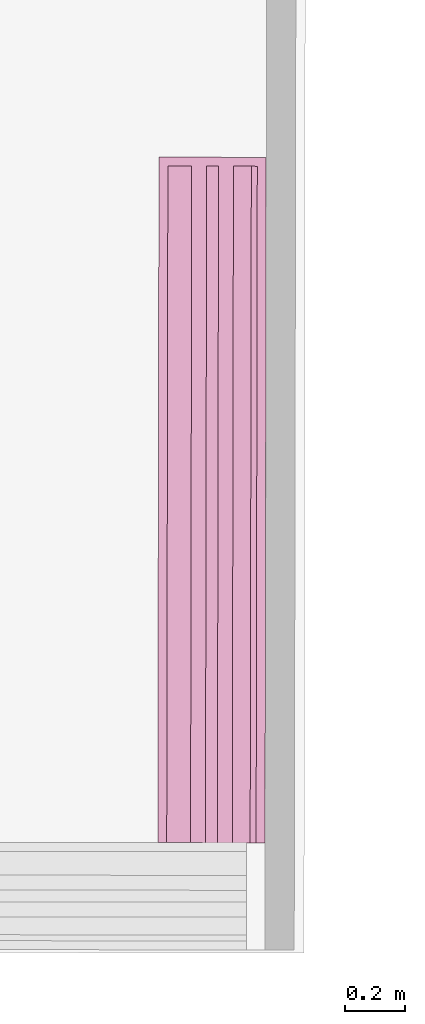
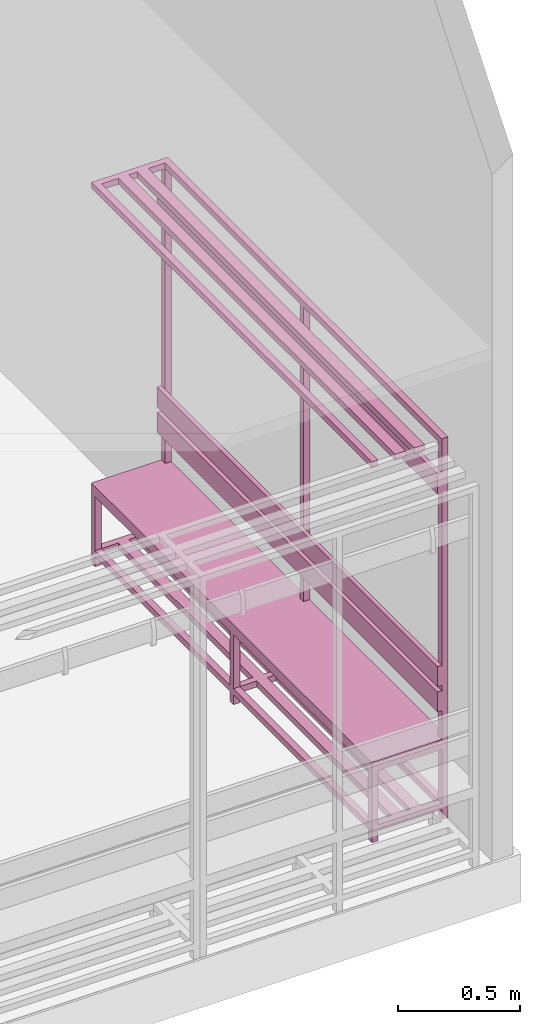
# One storey, part 40 of 43: 1 furnishing.
"""IFC2X3 building model written with IfcOpenShell, lengths in metres."""

from ifc_helpers import new_model, entity, si_unit, converted_unit, derived_unit, direction, frame, frame_2d, origin, origin_2d_with_axis, place, context, subcontext, project, spatial, polyline, circle_curve, parameter, trimmed, segment, composite_curve, rectangle, outline, extrude, source, transform, mapped, material, material_list, type_object, type_shapes, element, save


model = new_model("IFC2X3")

# Units and contexts
model_context = context("Model", 3, precision=1e-05, world=origin(), true_north=direction((6.123233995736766e-17, 1.0)))
body_context = subcontext(model_context, "Body", "Model", "MODEL_VIEW")
ifc_project = project(units=[si_unit("LENGTHUNIT", "METRE"), si_unit("AREAUNIT", "SQUARE_METRE"), converted_unit("PLANEANGLEUNIT", "DEGREE", entity("IfcPlaneAngleMeasure", 0.017453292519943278), si_unit("PLANEANGLEUNIT", "RADIAN"), dimensions=[0, 0, 0, 0, 0, 0, 0]), derived_unit("THERMALTRANSMITTANCEUNIT", [(si_unit("MASSUNIT", "GRAM", prefix="KILO"), 1), (si_unit("THERMODYNAMICTEMPERATUREUNIT", "KELVIN"), -1), (si_unit("TIMEUNIT", "SECOND"), -3)])], contexts=[model_context])

# Site, building, storey
site_placement = place(None, frame((1253.6752467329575, 2072.143113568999, 91.49999999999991), z_axis=(0.0, 0.0, 1.0), x_axis=(0.7237211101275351, 0.6900925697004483, 0.0)))
site = spatial("IfcSite", under=ifc_project, at=site_placement, Name="Surface", CompositionType="ELEMENT")
building_placement = place(site_placement, origin())
building = spatial("IfcBuilding", under=site, at=building_placement, CompositionType="ELEMENT")
storey_placement = place(building_placement, frame((0.0, 0.0, -4.629999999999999)))
storey = spatial("IfcBuildingStorey", under=building, at=storey_placement, Name="rez de rue -1.10m", CompositionType="ELEMENT", Elevation=-4.629999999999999)

# Furnishing
ifc_material_1 = material(Name="Peinture - Grise")
ifc_material_2 = material(Name="<Unnamed>")
ifc_material_3 = material(Name="mat2")
ifc_material_list = material_list([ifc_material_1, ifc_material_2, ifc_material_3])
furniture_type = type_object("IfcFurnitureType", Name="bancpateres:bancpateres", AssemblyPlace="NOTDEFINED", material=ifc_material_list)
shared_shape = source(origin(), body_context, "Body", "SweptSolid", [
    extrude(outline(composite_curve([segment(polyline([(0.022484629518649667, -0.01590042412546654), (0.07301844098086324, -0.01590042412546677)]), True, "CONTINUOUS"), segment(polyline([(0.07301844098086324, -0.01590042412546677), (0.07301844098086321, -0.014900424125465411)]), True, "CONTINUOUS"), segment(polyline([(0.07301844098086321, -0.014900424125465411), (0.02263224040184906, -0.014900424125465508)]), True, "CONTINUOUS"), segment(polyline([(0.02263224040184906, -0.014900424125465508), (-0.04718504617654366, 0.006170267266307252)]), True, "CONTINUOUS"), segment(trimmed(circle_curve(frame_2d((-0.044350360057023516, 0.015562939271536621), x_axis=(0.9573513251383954, -0.28892635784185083)), 0.009811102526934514), [parameter(129.00000000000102)], [parameter(269.9999999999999)], True, "PARAMETER"), False, "CONTINUOUS"), segment(polyline([(-0.048058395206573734, 0.02464634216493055), (-0.04843633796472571, 0.025572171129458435)]), True, "CONTINUOUS"), segment(trimmed(circle_curve(frame_2d((-0.044350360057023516, 0.015562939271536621), x_axis=(0.9573513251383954, -0.28892635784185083)), 0.010811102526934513), [parameter(129.0000000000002)], [parameter(269.9999999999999)], True, "PARAMETER"), True, "CONTINUOUS"), segment(polyline([(-0.04747397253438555, 0.005212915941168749), (0.022484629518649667, -0.01590042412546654)]), True, "CONTINUOUS")], self_intersect=False)), frame((0.26806707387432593, 0.4912741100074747, 6.308572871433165), z_axis=(1.0, 0.0, 0.0), x_axis=(0.0, -0.28892635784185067, 0.957351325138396)), (0.0, 0.0, 1.0), 0.019999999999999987),
    extrude(outline(composite_curve([segment(polyline([(0.022484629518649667, -0.01590042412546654), (0.07301844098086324, -0.01590042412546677)]), True, "CONTINUOUS"), segment(polyline([(0.07301844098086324, -0.01590042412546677), (0.07301844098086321, -0.014900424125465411)]), True, "CONTINUOUS"), segment(polyline([(0.07301844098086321, -0.014900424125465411), (0.02263224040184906, -0.014900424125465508)]), True, "CONTINUOUS"), segment(polyline([(0.02263224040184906, -0.014900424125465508), (-0.04718504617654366, 0.006170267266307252)]), True, "CONTINUOUS"), segment(trimmed(circle_curve(frame_2d((-0.044350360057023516, 0.015562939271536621), x_axis=(0.9573513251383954, -0.28892635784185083)), 0.009811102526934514), [parameter(129.00000000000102)], [parameter(269.9999999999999)], True, "PARAMETER"), False, "CONTINUOUS"), segment(polyline([(-0.048058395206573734, 0.02464634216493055), (-0.04843633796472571, 0.025572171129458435)]), True, "CONTINUOUS"), segment(trimmed(circle_curve(frame_2d((-0.044350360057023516, 0.015562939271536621), x_axis=(0.9573513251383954, -0.28892635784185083)), 0.010811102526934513), [parameter(129.0000000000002)], [parameter(269.9999999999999)], True, "PARAMETER"), True, "CONTINUOUS"), segment(polyline([(-0.04747397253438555, 0.005212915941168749), (0.022484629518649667, -0.01590042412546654)]), True, "CONTINUOUS")], self_intersect=False)), frame((-0.10793292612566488, 0.4912741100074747, 6.308572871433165), z_axis=(1.0, 0.0, 0.0), x_axis=(0.0, -0.28892635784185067, 0.957351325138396)), (0.0, 0.0, 1.0), 0.020000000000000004),
    extrude(outline(composite_curve([segment(polyline([(0.022484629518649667, -0.01590042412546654), (0.07301844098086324, -0.01590042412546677)]), True, "CONTINUOUS"), segment(polyline([(0.07301844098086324, -0.01590042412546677), (0.07301844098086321, -0.014900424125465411)]), True, "CONTINUOUS"), segment(polyline([(0.07301844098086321, -0.014900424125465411), (0.02263224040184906, -0.014900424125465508)]), True, "CONTINUOUS"), segment(polyline([(0.02263224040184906, -0.014900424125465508), (-0.04718504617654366, 0.006170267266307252)]), True, "CONTINUOUS"), segment(trimmed(circle_curve(frame_2d((-0.044350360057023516, 0.015562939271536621), x_axis=(0.9573513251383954, -0.28892635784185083)), 0.009811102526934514), [parameter(129.00000000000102)], [parameter(269.9999999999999)], True, "PARAMETER"), False, "CONTINUOUS"), segment(polyline([(-0.048058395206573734, 0.02464634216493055), (-0.04843633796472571, 0.025572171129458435)]), True, "CONTINUOUS"), segment(trimmed(circle_curve(frame_2d((-0.044350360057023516, 0.015562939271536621), x_axis=(0.9573513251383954, -0.28892635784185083)), 0.010811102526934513), [parameter(129.0000000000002)], [parameter(269.9999999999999)], True, "PARAMETER"), True, "CONTINUOUS"), segment(polyline([(-0.04747397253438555, 0.005212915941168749), (0.022484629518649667, -0.01590042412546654)]), True, "CONTINUOUS")], self_intersect=False)), frame((-0.48393292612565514, 0.4912741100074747, 6.308572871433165), z_axis=(1.0, 0.0, 0.0), x_axis=(0.0, -0.28892635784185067, 0.957351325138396)), (0.0, 0.0, 1.0), 0.019999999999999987),
    extrude(outline(composite_curve([segment(polyline([(0.022484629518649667, -0.01590042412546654), (0.07301844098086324, -0.01590042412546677)]), True, "CONTINUOUS"), segment(polyline([(0.07301844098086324, -0.01590042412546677), (0.07301844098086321, -0.014900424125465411)]), True, "CONTINUOUS"), segment(polyline([(0.07301844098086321, -0.014900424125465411), (0.02263224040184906, -0.014900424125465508)]), True, "CONTINUOUS"), segment(polyline([(0.02263224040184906, -0.014900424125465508), (-0.04718504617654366, 0.006170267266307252)]), True, "CONTINUOUS"), segment(trimmed(circle_curve(frame_2d((-0.044350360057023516, 0.015562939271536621), x_axis=(0.9573513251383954, -0.28892635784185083)), 0.009811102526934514), [parameter(129.00000000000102)], [parameter(269.9999999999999)], True, "PARAMETER"), False, "CONTINUOUS"), segment(polyline([(-0.048058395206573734, 0.02464634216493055), (-0.04843633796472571, 0.025572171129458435)]), True, "CONTINUOUS"), segment(trimmed(circle_curve(frame_2d((-0.044350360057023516, 0.015562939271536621), x_axis=(0.9573513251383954, -0.28892635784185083)), 0.010811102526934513), [parameter(129.0000000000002)], [parameter(269.9999999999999)], True, "PARAMETER"), True, "CONTINUOUS"), segment(polyline([(-0.04747397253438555, 0.005212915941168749), (0.022484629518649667, -0.01590042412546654)]), True, "CONTINUOUS")], self_intersect=False)), frame((-0.859932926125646, 0.4912741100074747, 6.308572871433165), z_axis=(1.0, 0.0, 0.0), x_axis=(0.0, -0.28892635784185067, 0.957351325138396)), (0.0, 0.0, 1.0), 0.020000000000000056),
    extrude(outline(composite_curve([segment(polyline([(0.022484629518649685, -0.015900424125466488), (0.07301844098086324, -0.01590042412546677)]), True, "CONTINUOUS"), segment(polyline([(0.07301844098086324, -0.01590042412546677), (0.07301844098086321, -0.014900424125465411)]), True, "CONTINUOUS"), segment(polyline([(0.07301844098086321, -0.014900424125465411), (0.02263224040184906, -0.014900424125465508)]), True, "CONTINUOUS"), segment(polyline([(0.02263224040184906, -0.014900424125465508), (-0.0471850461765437, 0.006170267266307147)]), True, "CONTINUOUS"), segment(trimmed(circle_curve(frame_2d((-0.044350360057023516, 0.015562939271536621), x_axis=(0.9573513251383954, -0.2889263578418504)), 0.009811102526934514), [parameter(129.00000000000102)], [parameter(269.9999999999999)], True, "PARAMETER"), False, "CONTINUOUS"), segment(polyline([(-0.048058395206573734, 0.02464634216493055), (-0.0484363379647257, 0.02557217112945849)]), True, "CONTINUOUS"), segment(trimmed(circle_curve(frame_2d((-0.044350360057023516, 0.015562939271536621), x_axis=(0.9573513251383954, -0.2889263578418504)), 0.010811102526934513), [parameter(129.0000000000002)], [parameter(269.9999999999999)], True, "PARAMETER"), True, "CONTINUOUS"), segment(polyline([(-0.04747397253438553, 0.005212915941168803), (0.022484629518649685, -0.015900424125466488)]), True, "CONTINUOUS")], self_intersect=False)), frame((0.6440670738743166, 0.4912741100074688, 6.308572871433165), z_axis=(1.0, 0.0, 0.0), x_axis=(0.0, -0.28892635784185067, 0.957351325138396)), (0.0, 0.0, 1.0), 0.020000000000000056),
    extrude(outline(composite_curve([segment(polyline([(0.022484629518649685, -0.015900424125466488), (0.07301844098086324, -0.01590042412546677)]), True, "CONTINUOUS"), segment(polyline([(0.07301844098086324, -0.01590042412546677), (0.07301844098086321, -0.014900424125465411)]), True, "CONTINUOUS"), segment(polyline([(0.07301844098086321, -0.014900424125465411), (0.02263224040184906, -0.014900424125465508)]), True, "CONTINUOUS"), segment(polyline([(0.02263224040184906, -0.014900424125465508), (-0.0471850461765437, 0.006170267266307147)]), True, "CONTINUOUS"), segment(trimmed(circle_curve(frame_2d((-0.044350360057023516, 0.015562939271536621), x_axis=(0.9573513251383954, -0.2889263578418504)), 0.009811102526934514), [parameter(129.00000000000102)], [parameter(269.9999999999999)], True, "PARAMETER"), False, "CONTINUOUS"), segment(polyline([(-0.04805839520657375, 0.024646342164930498), (-0.04843633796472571, 0.025572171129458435)]), True, "CONTINUOUS"), segment(trimmed(circle_curve(frame_2d((-0.044350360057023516, 0.015562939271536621), x_axis=(0.9573513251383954, -0.2889263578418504)), 0.010811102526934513), [parameter(129.0000000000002)], [parameter(269.9999999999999)], True, "PARAMETER"), True, "CONTINUOUS"), segment(polyline([(-0.04747397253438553, 0.005212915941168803), (0.022484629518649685, -0.015900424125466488)]), True, "CONTINUOUS")], self_intersect=False)), frame((-1.2359329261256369, 0.49127411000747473, 6.308572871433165), z_axis=(1.0, 0.0, 0.0), x_axis=(0.0, -0.28892635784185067, 0.957351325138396)), (0.0, 0.0, 1.0), 0.01999999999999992),
    extrude(rectangle(XDim=0.030000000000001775, YDim=0.3599999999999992, at=frame_2d((-6.774095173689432e-16, 5.412337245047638e-16), x_axis=(1.0, 0.0))), frame((-0.2859329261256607, 0.33000000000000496, 4.679999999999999), z_axis=(0.0, 0.0, 1.0), x_axis=(-1.0, 0.0, 0.0)), (0.0, 0.0, 1.0), 0.03),
    extrude(rectangle(XDim=0.020000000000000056, YDim=2.299999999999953, at=origin_2d_with_axis()), frame((-0.2859329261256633, 0.470000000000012, 6.261999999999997), z_axis=(0.0, 0.0, 1.0), x_axis=(0.0, 1.0, 0.0)), (0.0, 0.0, 1.0), 0.1),
    extrude(rectangle(XDim=0.01999999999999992, YDim=2.299999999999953, at=origin_2d_with_axis()), frame((-0.2859329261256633, 0.4700000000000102, 5.300999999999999), z_axis=(0.0, 0.0, 1.0), x_axis=(0.0, 1.0, 0.0)), (0.0, 0.0, 1.0), 0.09999999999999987),
    extrude(rectangle(XDim=0.020000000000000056, YDim=2.299999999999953, at=origin_2d_with_axis()), frame((-0.2859329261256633, 0.47000000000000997, 5.173999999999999), z_axis=(0.0, 0.0, 1.0), x_axis=(0.0, 1.0, 0.0)), (0.0, 0.0, 1.0), 0.09999999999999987),
    extrude(rectangle(XDim=0.030000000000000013, YDim=0.02999999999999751, at=frame_2d((3.382710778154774e-17, 0.0), x_axis=(1.0, 0.0))), frame((-0.2859329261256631, 0.495000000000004, 4.629999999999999), z_axis=(0.0, 0.0, 1.0), x_axis=(0.0, 1.0, 0.0)), (0.0, 0.0, 1.0), 1.9000000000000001),
    extrude(rectangle(XDim=0.02999999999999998, YDim=0.02999999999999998, at=frame_2d((-1.734723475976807e-17, 1.734723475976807e-17), x_axis=(1.0, 0.0))), frame((-0.28593292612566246, 0.16500000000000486, 4.629999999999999), z_axis=(0.0, 0.0, 1.0), x_axis=(0.0, 1.0, 0.0)), (0.0, 0.0, 1.0), 0.38000000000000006),
    extrude(rectangle(XDim=0.1, YDim=2.299999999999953, at=origin_2d_with_axis()), frame((-0.2859329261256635, 0.46000000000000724, 5.009999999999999), z_axis=(0.0, 0.0, 1.0), x_axis=(0.0, 1.0, 0.0)), (0.0, 0.0, 1.0), 0.019999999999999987),
    extrude(rectangle(XDim=0.1, YDim=2.299999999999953, at=origin_2d_with_axis()), frame((-0.2859329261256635, 0.40000000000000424, 5.009999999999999), z_axis=(0.0, 0.0, 1.0), x_axis=(0.0, 1.0, 0.0)), (0.0, 0.0, 1.0), 0.019999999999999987),
    extrude(rectangle(XDim=0.10000000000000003, YDim=2.299999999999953, at=frame_2d((-1.734723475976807e-17, 0.0), x_axis=(1.0, 0.0))), frame((-0.2859329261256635, 0.3000000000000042, 5.009999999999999), z_axis=(0.0, 0.0, 1.0), x_axis=(0.0, 1.0, 0.0)), (0.0, 0.0, 1.0), 0.019999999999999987),
    extrude(rectangle(XDim=0.1, YDim=2.299999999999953, at=origin_2d_with_axis()), frame((-0.2859329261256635, 0.20000000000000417, 5.009999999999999), z_axis=(0.0, 0.0, 1.0), x_axis=(0.0, 1.0, 0.0)), (0.0, 0.0, 1.0), 0.019999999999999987),
    extrude(rectangle(XDim=0.029999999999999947, YDim=0.36000000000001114, at=frame_2d((-1.3530843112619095e-16, 0.0), x_axis=(1.0, 0.0))), frame((-1.4209329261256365, 0.33000000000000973, 4.979999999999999), z_axis=(0.0, 0.0, 1.0), x_axis=(-1.0, 0.0, 0.0)), (0.0, 0.0, 1.0), 0.030000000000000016),
    extrude(rectangle(XDim=0.03000000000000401, YDim=0.36000000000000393, at=frame_2d((-1.3530843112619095e-16, -2.7755575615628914e-17), x_axis=(1.0, 0.0))), frame((0.849067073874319, 0.3299999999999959, 4.979999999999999), z_axis=(0.0, 0.0, 1.0), x_axis=(-1.0, 0.0, 0.0)), (0.0, 0.0, 1.0), 0.030000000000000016),
    extrude(rectangle(XDim=0.030000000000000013, YDim=2.2999999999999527, at=frame_2d((-3.382710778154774e-17, 0.0), x_axis=(1.0, 0.0))), frame((-0.28593292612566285, 0.49500000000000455, 4.979999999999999), z_axis=(0.0, 0.0, 1.0), x_axis=(0.0, 1.0, 0.0)), (0.0, 0.0, 1.0), 0.030000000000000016),
    extrude(rectangle(XDim=0.02999999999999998, YDim=2.2999999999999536, at=frame_2d((-1.734723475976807e-17, 0.0), x_axis=(1.0, 0.0))), frame((-0.2859329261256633, 0.16500000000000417, 4.979999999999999), z_axis=(0.0, 0.0, 1.0), x_axis=(0.0, 1.0, 0.0)), (0.0, 0.0, 1.0), 0.030000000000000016),
    extrude(rectangle(XDim=0.030000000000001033, YDim=0.36000000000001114, at=frame_2d((1.3617579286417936e-16, 0.0), x_axis=(1.0, 0.0))), frame((-1.4209329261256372, 0.33000000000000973, 4.679999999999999), z_axis=(0.0, 0.0, 1.0), x_axis=(-1.0, 0.0, 0.0)), (0.0, 0.0, 1.0), 0.03),
    extrude(rectangle(XDim=0.029999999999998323, YDim=0.36000000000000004, at=frame_2d((-1.3530843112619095e-16, 2.7755575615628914e-17), x_axis=(1.0, 0.0))), frame((0.8490670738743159, 0.33000000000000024, 4.679999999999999), z_axis=(0.0, 0.0, 1.0), x_axis=(-1.0, 0.0, 0.0)), (0.0, 0.0, 1.0), 0.03),
    extrude(rectangle(XDim=2.299999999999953, YDim=0.04999999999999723, at=origin_2d_with_axis()), frame((-0.2859329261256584, 0.28500000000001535, 4.679999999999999), z_axis=(0.0, 0.0, 1.0), x_axis=(-1.0, 0.0, 0.0)), (0.0, 0.0, 1.0), 0.03),
    extrude(rectangle(XDim=2.299999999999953, YDim=0.0499999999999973, at=frame_2d((0.0, 3.469446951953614e-17), x_axis=(1.0, 0.0))), frame((-0.2859329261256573, 0.3750000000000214, 4.679999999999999), z_axis=(0.0, 0.0, 1.0), x_axis=(-1.0, 0.0, 0.0)), (0.0, 0.0, 1.0), 0.03),
    extrude(rectangle(XDim=0.030000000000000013, YDim=2.299999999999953, at=frame_2d((-3.382710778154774e-17, 0.0), x_axis=(1.0, 0.0))), frame((-0.2859329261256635, 0.49500000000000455, 4.679999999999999), z_axis=(0.0, 0.0, 1.0), x_axis=(0.0, 1.0, 0.0)), (0.0, 0.0, 1.0), 0.03),
    extrude(rectangle(XDim=0.02999999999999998, YDim=2.299999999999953, at=frame_2d((-1.734723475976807e-17, 0.0), x_axis=(1.0, 0.0))), frame((-0.2859329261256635, 0.16500000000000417, 4.679999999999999), z_axis=(0.0, 0.0, 1.0), x_axis=(0.0, 1.0, 0.0)), (0.0, 0.0, 1.0), 0.03),
    extrude(rectangle(XDim=0.030000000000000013, YDim=0.03000000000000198, at=frame_2d((3.382710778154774e-17, 6.765421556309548e-17), x_axis=(1.0, 0.0))), frame((0.8490670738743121, 0.4950000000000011, 4.629999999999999), z_axis=(0.0, 0.0, 1.0), x_axis=(0.0, 1.0, 0.0)), (0.0, 0.0, 1.0), 1.9000000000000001),
    extrude(rectangle(XDim=0.02999999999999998, YDim=0.030000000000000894, at=frame_2d((-1.734723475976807e-17, 6.852157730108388e-17), x_axis=(1.0, 0.0))), frame((0.8490670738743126, 0.16500000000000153, 4.629999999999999), z_axis=(0.0, 0.0, 1.0), x_axis=(0.0, 1.0, 0.0)), (0.0, 0.0, 1.0), 0.38000000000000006),
    extrude(rectangle(XDim=0.030000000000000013, YDim=0.030000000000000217, at=frame_2d((3.382710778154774e-17, 0.0), x_axis=(1.0, 0.0))), frame((-1.4209329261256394, 0.49500000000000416, 4.629999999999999), z_axis=(0.0, 0.0, 1.0), x_axis=(0.0, 1.0, 0.0)), (0.0, 0.0, 1.0), 1.9000000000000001),
    extrude(rectangle(XDim=0.02999999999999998, YDim=0.030000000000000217, at=frame_2d((-1.734723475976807e-17, 0.0), x_axis=(1.0, 0.0))), frame((-1.42093292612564, 0.16500000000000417, 4.629999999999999), z_axis=(0.0, 0.0, 1.0), x_axis=(0.0, 1.0, 0.0)), (0.0, 0.0, 1.0), 0.38000000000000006),
    extrude(rectangle(XDim=0.029999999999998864, YDim=0.3600000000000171, at=frame_2d((1.3530843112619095e-16, 0.0), x_axis=(1.0, 0.0))), frame((-1.4209329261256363, 0.33000000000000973, 6.499999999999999), z_axis=(0.0, 0.0, 1.0), x_axis=(-1.0, 0.0, 0.0)), (0.0, 0.0, 1.0), 0.029999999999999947),
    extrude(rectangle(XDim=2.299999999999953, YDim=0.049999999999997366, at=origin_2d_with_axis()), frame((-0.28593292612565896, 0.28500000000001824, 6.499999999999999), z_axis=(0.0, 0.0, 1.0), x_axis=(-1.0, 0.0, 0.0)), (0.0, 0.0, 1.0), 0.029999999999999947),
    extrude(rectangle(XDim=2.2999999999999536, YDim=0.0499999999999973, at=frame_2d((-1.1102230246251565e-16, -3.469446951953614e-17), x_axis=(1.0, 0.0))), frame((-0.2859329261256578, 0.37500000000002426, 6.499999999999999), z_axis=(0.0, 0.0, 1.0), x_axis=(-1.0, 0.0, 0.0)), (0.0, 0.0, 1.0), 0.029999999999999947),
    extrude(rectangle(XDim=0.030000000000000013, YDim=2.2999999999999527, at=frame_2d((3.382710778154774e-17, 0.0), x_axis=(1.0, 0.0))), frame((-0.2859329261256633, 0.4950000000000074, 6.499999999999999), z_axis=(0.0, 0.0, 1.0), x_axis=(0.0, 1.0, 0.0)), (0.0, 0.0, 1.0), 0.029999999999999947),
    extrude(rectangle(XDim=0.02999999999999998, YDim=2.2999999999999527, at=frame_2d((-1.734723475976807e-17, 0.0), x_axis=(1.0, 0.0))), frame((-0.2859329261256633, 0.16500000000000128, 6.499999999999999), z_axis=(0.0, 0.0, 1.0), x_axis=(0.0, 1.0, 0.0)), (0.0, 0.0, 1.0), 0.029999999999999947),
])
type_shapes(furniture_type, [shared_shape])
furnishing_placement = place(storey_placement, frame((175.78453774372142, -12.293044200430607, -4.629999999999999), z_axis=(0.0, 0.0, 1.0), x_axis=(-0.6913353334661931, -0.7225340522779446, 0.0)))
element("IfcFurnishingElement", 1, at=furnishing_placement, inside=storey, type_object=furniture_type, material=ifc_material_list, Name="bancpateres:bancpateres", ObjectType="bancpateres:bancpateres", context=body_context, shape_type="MappedRepresentation", body=[
    mapped(shared_shape, transform((0.0, 0.0, 0.0), scale=1.0)),
])

save(model, "model.ifc")
